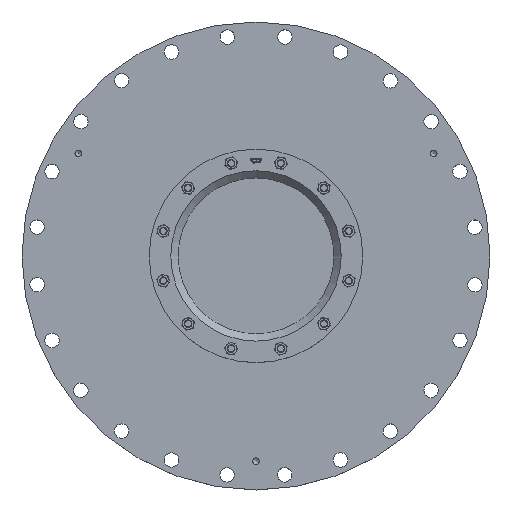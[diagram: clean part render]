
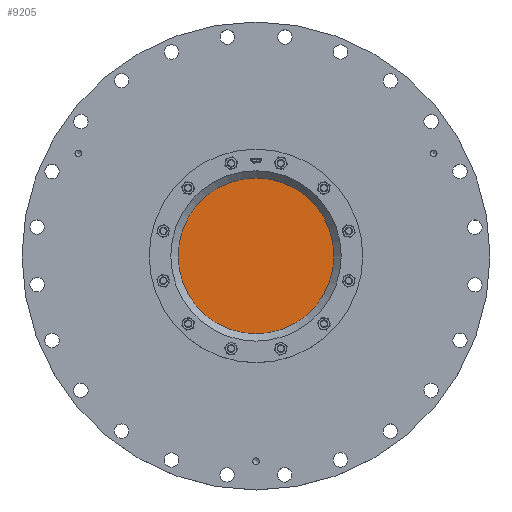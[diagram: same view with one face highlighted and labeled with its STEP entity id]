
A CAD part, top view. The second image highlights one B-rep face of the part: STEP entity #9205.
In plain terms, the highlighted planar face has unit normal (0, 0, 1).
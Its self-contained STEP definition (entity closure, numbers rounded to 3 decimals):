
#2633=FACE_OUTER_BOUND('',#3196,.T.);
#3196=EDGE_LOOP('',(#6384));
#3957=CIRCLE('',#9771,162.5);
#4233=VERTEX_POINT('',#12480);
#5091=EDGE_CURVE('',#4233,#4233,#3957,.T.);
#6384=ORIENTED_EDGE('',*,*,#5091,.F.);
#8970=PLANE('',#9770);
#9205=ADVANCED_FACE('',(#2633),#8970,.F.);
#9770=AXIS2_PLACEMENT_3D('',#12479,#10503,#10504);
#9771=AXIS2_PLACEMENT_3D('',#12481,#10505,#10506);
#10503=DIRECTION('center_axis',(0.,0.,-1.));
#10504=DIRECTION('ref_axis',(-1.,0.,0.));
#10505=DIRECTION('center_axis',(0.,0.,-1.));
#10506=DIRECTION('ref_axis',(-1.,0.,0.));
#12479=CARTESIAN_POINT('Origin',(0.,0.,104.));
#12480=CARTESIAN_POINT('',(162.5,0.,104.));
#12481=CARTESIAN_POINT('Origin',(0.,0.,104.));
